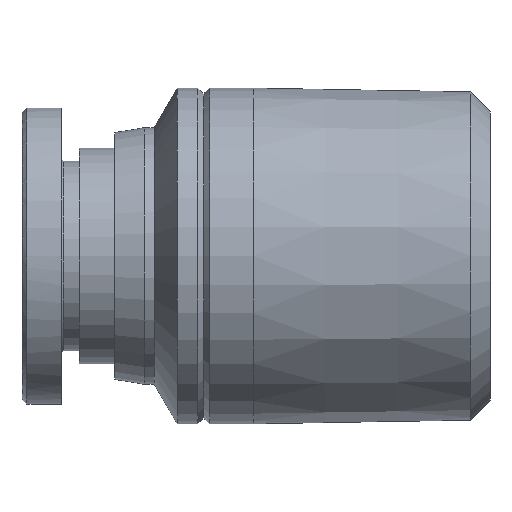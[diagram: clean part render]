
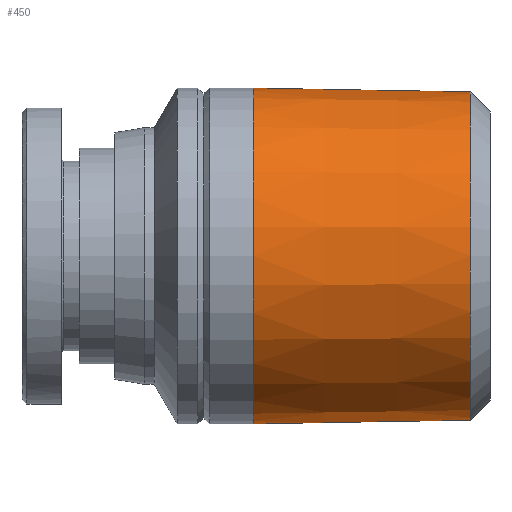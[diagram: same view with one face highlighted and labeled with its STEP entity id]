
A CAD part, top view. The second image highlights one B-rep face of the part: STEP entity #450.
In plain terms, the highlighted conical face has half-angle 0.976 degrees and reference radius 8.398 mm.
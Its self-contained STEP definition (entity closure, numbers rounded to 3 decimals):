
#188=CARTESIAN_POINT('',(7.0,8.5,0.0));
#189=VERTEX_POINT('',#188);
#190=CARTESIAN_POINT('',(7.0,0.0,0.0));
#191=DIRECTION('',(1.0,0.0,0.0));
#192=DIRECTION('',(0.0,1.0,0.0));
#193=AXIS2_PLACEMENT_3D('',#190,#191,#192);
#194=CIRCLE('',#193,8.5);
#195=EDGE_CURVE('',#189,#189,#194,.T.);
#396=CARTESIAN_POINT('',(18.,8.313,0.));
#397=VERTEX_POINT('',#396);
#398=CARTESIAN_POINT('',(18.,0.0,0.));
#399=DIRECTION('',(1.0,0.0,0.0));
#400=DIRECTION('',(0.0,-1.0,0.0));
#401=AXIS2_PLACEMENT_3D('',#398,#399,#400);
#402=CIRCLE('',#401,8.313);
#403=EDGE_CURVE('',#397,#397,#402,.T.);
#439=CARTESIAN_POINT('',(13.0,0.0,0.0));
#440=DIRECTION('',(-1.0,0.0,0.0));
#441=DIRECTION('',(0.0,1.0,0.0));
#442=AXIS2_PLACEMENT_3D('',#439,#440,#441);
#443=CONICAL_SURFACE('',#442,8.398,0.976);
#444=ORIENTED_EDGE('',*,*,#195,.T.);
#445=EDGE_LOOP('',(#444));
#446=FACE_OUTER_BOUND('',#445,.T.);
#447=ORIENTED_EDGE('',*,*,#403,.F.);
#448=EDGE_LOOP('',(#447));
#449=FACE_BOUND('',#448,.T.);
#450=ADVANCED_FACE('',(#446,#449),#443,.T.);
